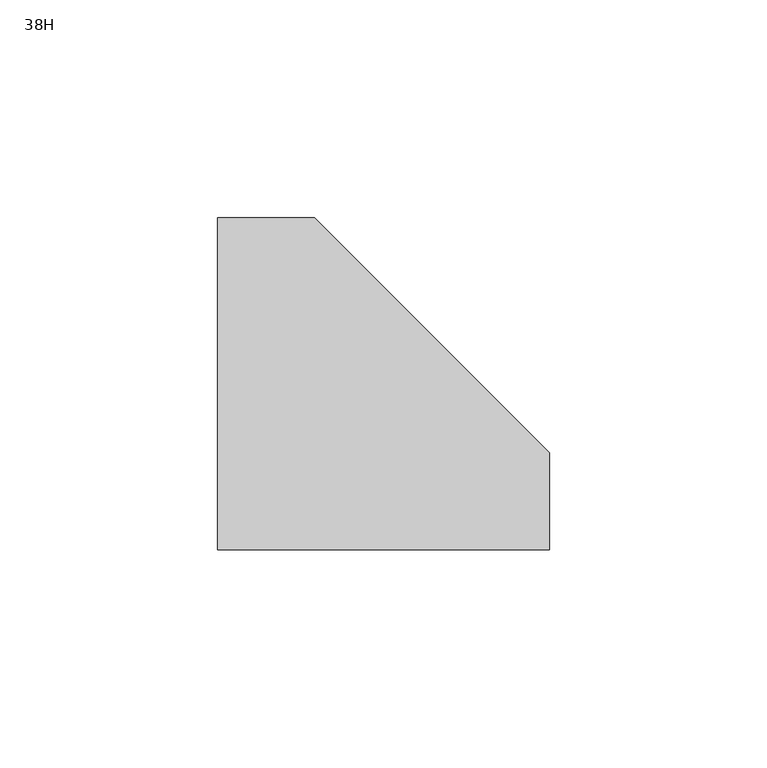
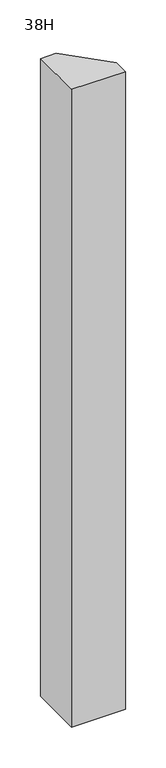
"""IFC4 building model written with IfcOpenShell, lengths in millimetres: furniture geometry, Steelcase - Montage - Junction - L Chamfered- Same-Height : 38H."""

from ifc_helpers import new_model, si_unit, frame, origin, place, context, project, spatial, polyline, outline, extrude, source, transform, mapped, element, save


def furniture_38h_7f22f2ad(model_context):
    return source(origin(), model_context, "Body", "SweptSolid", [
        extrude(outline(polyline([(533.4, -15.8750015), (533.4, -38.1000015), (457.2, -38.1000015), (457.2, 38.1000015), (479.424997, 38.1000015), (533.4, -15.8750015)])), frame((0.0, 0.0, 4.064), z_axis=(0.0, 0.0, 1.0), x_axis=(1.0, 0.0, 0.0)), (0.0, 0.0, 1.0), 954.786),
    ])


if __name__ == "__main__":
    model = new_model("IFC4")
    model_context = context("Model", 3, world=origin())
    ifc_project = project(units=[si_unit("LENGTHUNIT", "METRE", prefix="MILLI")], contexts=[model_context])
    site = spatial("IfcSite", under=ifc_project)
    building = spatial("IfcBuilding", under=site)
    placement = place(None, origin())
    furniture_38h_shape = furniture_38h_7f22f2ad(model_context)
    element("IfcFurniture", 1, ObjectType="Steelcase - Montage - Junction - L Chamfered- Same-Height : 38H", at=placement, inside=building, context=model_context, shape_type="MappedRepresentation", body=[
        mapped(furniture_38h_shape, transform((0.0, 0.0, 0.0), x_axis=(1.0, 0.0, 0.0), y_axis=(0.0, 1.0, 0.0), z_axis=(0.0, 0.0, 1.0))),
    ])
    save(model, "model.ifc")
